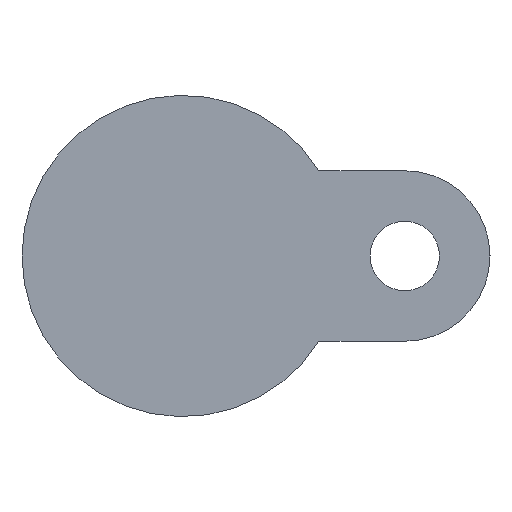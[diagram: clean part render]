
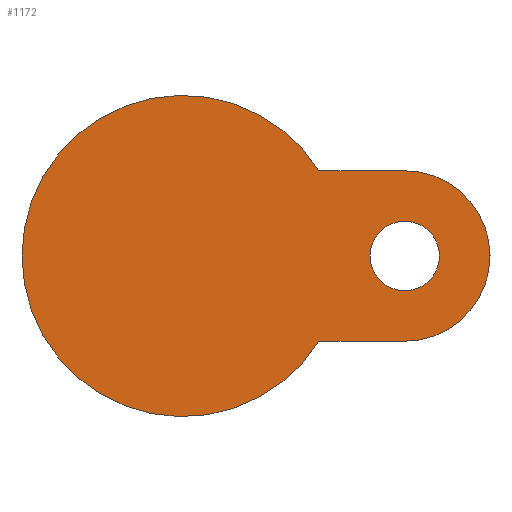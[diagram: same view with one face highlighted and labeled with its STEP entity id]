
A CAD part, front view. The second image highlights one B-rep face of the part: STEP entity #1172.
In plain terms, the highlighted planar face has unit normal (0, -1, 0).
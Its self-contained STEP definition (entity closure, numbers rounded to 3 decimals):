
#34 = ORIENTED_EDGE ( 'NONE', *, *, #1334, .F. ) ;
#70 = AXIS2_PLACEMENT_3D ( 'NONE', #947, #252, #136 ) ;
#130 = CIRCLE ( 'NONE', #1434, 8.75 ) ;
#131 = DIRECTION ( 'NONE',  ( 0., -1., 0. ) ) ;
#136 = DIRECTION ( 'NONE',  ( 1., 0., 0. ) ) ;
#153 = PLANE ( 'NONE',  #335 ) ;
#162 = DIRECTION ( 'NONE',  ( -1., 0., 0. ) ) ;
#174 = EDGE_CURVE ( 'NONE', #450, #847, #130, .T. ) ;
#206 = AXIS2_PLACEMENT_3D ( 'NONE', #1388, #131, #589 ) ;
#252 = DIRECTION ( 'NONE',  ( 0., 1., 0. ) ) ;
#291 = DIRECTION ( 'NONE',  ( -1., 0., 0. ) ) ;
#297 = AXIS2_PLACEMENT_3D ( 'NONE', #559, #1487, #569 ) ;
#298 = DIRECTION ( 'NONE',  ( 0., 1., 0. ) ) ;
#303 = EDGE_CURVE ( 'NONE', #847, #450, #368, .T. ) ;
#312 = VECTOR ( 'NONE', #162, 1000. ) ;
#323 = ORIENTED_EDGE ( 'NONE', *, *, #174, .T. ) ;
#335 = AXIS2_PLACEMENT_3D ( 'NONE', #420, #623, #499 ) ;
#368 = CIRCLE ( 'NONE', #297, 8.75 ) ;
#420 = CARTESIAN_POINT ( 'NONE',  ( 40.5, -23., 0. ) ) ;
#447 = EDGE_CURVE ( 'NONE', #729, #1471, #609, .T. ) ;
#450 = VERTEX_POINT ( 'NONE', #491 ) ;
#458 = CARTESIAN_POINT ( 'NONE',  ( 64.75, -23., 0. ) ) ;
#463 = ORIENTED_EDGE ( 'NONE', *, *, #591, .T. ) ;
#491 = CARTESIAN_POINT ( 'NONE',  ( 47.25, -23., 0. ) ) ;
#499 = DIRECTION ( 'NONE',  ( 1., 0., 0. ) ) ;
#554 = CARTESIAN_POINT ( 'NONE',  ( 34.322, -23., 21.5 ) ) ;
#559 = CARTESIAN_POINT ( 'NONE',  ( 56., -23., 0. ) ) ;
#569 = DIRECTION ( 'NONE',  ( -1., 0., 0. ) ) ;
#589 = DIRECTION ( 'NONE',  ( 1., 0., 0. ) ) ;
#591 = EDGE_CURVE ( 'NONE', #729, #1446, #923, .T. ) ;
#608 = FACE_BOUND ( 'NONE', #1457, .T. ) ;
#609 = LINE ( 'NONE', #1185, #1112 ) ;
#623 = DIRECTION ( 'NONE',  ( 0., -1., 0. ) ) ;
#651 = EDGE_LOOP ( 'NONE', ( #463, #853, #34, #745 ) ) ;
#723 = CARTESIAN_POINT ( 'NONE',  ( 56., -23., -21.5 ) ) ;
#729 = VERTEX_POINT ( 'NONE', #554 ) ;
#745 = ORIENTED_EDGE ( 'NONE', *, *, #447, .F. ) ;
#815 = LINE ( 'NONE', #1393, #312 ) ;
#847 = VERTEX_POINT ( 'NONE', #458 ) ;
#853 = ORIENTED_EDGE ( 'NONE', *, *, #1395, .F. ) ;
#923 = CIRCLE ( 'NONE', #206, 40.5 ) ;
#947 = CARTESIAN_POINT ( 'NONE',  ( 56., -23., 0. ) ) ;
#1087 = CARTESIAN_POINT ( 'NONE',  ( 56., -23., 0. ) ) ;
#1112 = VECTOR ( 'NONE', #1401, 1000. ) ;
#1171 = VERTEX_POINT ( 'NONE', #723 ) ;
#1172 = ADVANCED_FACE ( 'NONE', ( #608, #1453 ), #153, .T. ) ;
#1185 = CARTESIAN_POINT ( 'NONE',  ( 30.5, -23., 21.5 ) ) ;
#1315 = CARTESIAN_POINT ( 'NONE',  ( 34.322, -23., -21.5 ) ) ;
#1334 = EDGE_CURVE ( 'NONE', #1471, #1171, #1418, .T. ) ;
#1388 = CARTESIAN_POINT ( 'NONE',  ( 0., -23., 0. ) ) ;
#1393 = CARTESIAN_POINT ( 'NONE',  ( 30.5, -23., -21.5 ) ) ;
#1395 = EDGE_CURVE ( 'NONE', #1171, #1446, #815, .T. ) ;
#1401 = DIRECTION ( 'NONE',  ( 1., 0., 0. ) ) ;
#1418 = CIRCLE ( 'NONE', #70, 21.5 ) ;
#1434 = AXIS2_PLACEMENT_3D ( 'NONE', #1087, #298, #291 ) ;
#1446 = VERTEX_POINT ( 'NONE', #1315 ) ;
#1452 = CARTESIAN_POINT ( 'NONE',  ( 56., -23., 21.5 ) ) ;
#1453 = FACE_OUTER_BOUND ( 'NONE', #651, .T. ) ;
#1457 = EDGE_LOOP ( 'NONE', ( #323, #1497 ) ) ;
#1471 = VERTEX_POINT ( 'NONE', #1452 ) ;
#1487 = DIRECTION ( 'NONE',  ( 0., 1., 0. ) ) ;
#1497 = ORIENTED_EDGE ( 'NONE', *, *, #303, .T. ) ;
